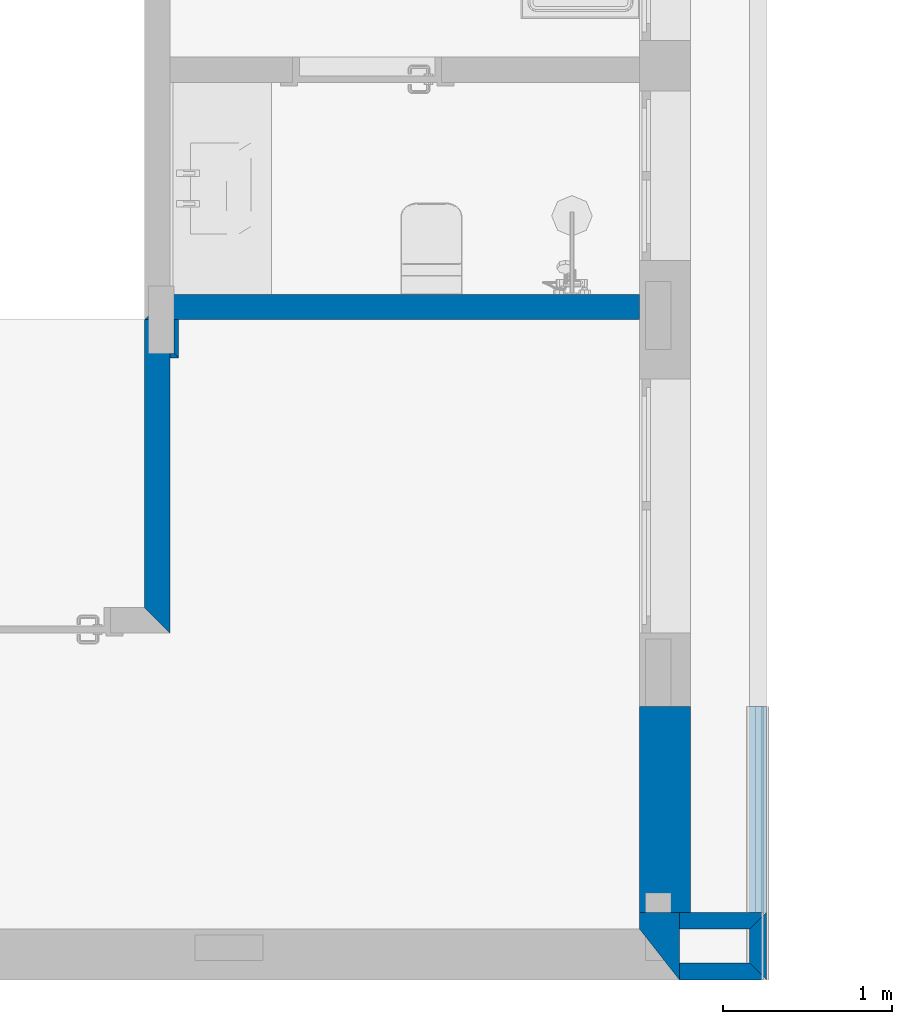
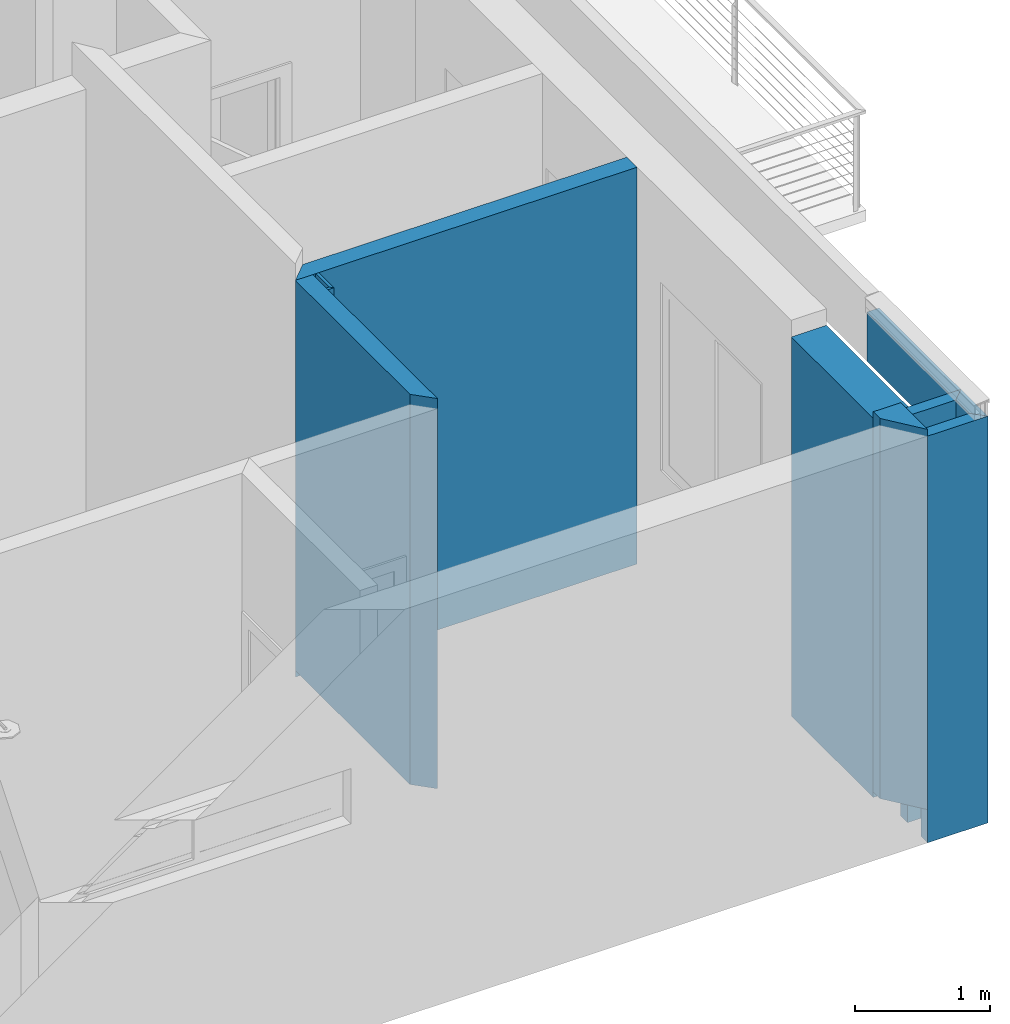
# One storey, part 5 of 26: 10 walls.
"""IFC2X3 building model written with IfcOpenShell, lengths in millimetres."""

from ifc_helpers import new_model, entity, si_unit, converted_unit, money_unit, direction, frame, origin_with_axes, place, context, subcontext, project, spatial, polyline, outline, extrude, material, layer, layer_set, layer_usage, type_object, element, save


model = new_model("IFC2X3")

# Units and contexts
model_context = context("Model", 3, precision=1e-05, world=origin_with_axes(), true_north=direction((0.0, 1.0)))
body_context = subcontext(model_context, "Body", "Model", "MODEL_VIEW")
ifc_project = project(units=[si_unit("LENGTHUNIT", "METRE", prefix="MILLI"), si_unit("AREAUNIT", "SQUARE_METRE"), si_unit("VOLUMEUNIT", "CUBIC_METRE"), converted_unit("PLANEANGLEUNIT", "DEGREE", entity("IfcPlaneAngleMeasure", 0.0174532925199), si_unit("PLANEANGLEUNIT", "RADIAN"), dimensions=[0, 0, 0, 0, 0, 0, 0]), si_unit("SOLIDANGLEUNIT", "STERADIAN"), money_unit("USD"), converted_unit("TIMEUNIT", "Year", entity("IfcTimeMeasure", 31556926.0), si_unit("TIMEUNIT", "SECOND"), dimensions=[0, 0, 0, 0, 0, 0, 0]), si_unit("MASSUNIT", "GRAM"), si_unit("THERMODYNAMICTEMPERATUREUNIT", "DEGREE_CELSIUS"), si_unit("LUMINOUSINTENSITYUNIT", "LUMEN")], contexts=[model_context])

# Site, building, storey
site_placement = place(None, origin_with_axes())
site = spatial("IfcSite", under=ifc_project, at=site_placement, Name="Grove Residential", CompositionType="ELEMENT")
building_placement = place(site_placement, origin_with_axes())
building = spatial("IfcBuilding", under=site, at=building_placement, Name="Building", CompositionType="ELEMENT")
storey_placement = place(building_placement, origin_with_axes())
storey = spatial("IfcBuildingStorey", under=building, at=storey_placement, Name="Ground Floor", CompositionType="ELEMENT", Elevation=0.0)

# Walls
ifc_material_1 = material(Name="Insulation - Plastic Soft")
ifc_layer_1 = layer(ifc_material_1, 50.0, ventilated="UNKNOWN")
ifc_material_2 = material(Name="Concrete Block")
ifc_layer_2 = layer(ifc_material_2, 150.0, ventilated="UNKNOWN")
ifc_material_3 = material(Name="Air Space - Fixing Zone")
ifc_layer_3 = layer(ifc_material_3, 10.0, ventilated="UNKNOWN")
ifc_material_4 = material(Name="Gypsum Plasterboard")
ifc_layer_4 = layer(ifc_material_4, 12.5, ventilated="UNKNOWN")
ifc_layer_5 = layer(ifc_material_4, 12.5, ventilated="UNKNOWN")
ifc_layer_set_1 = layer_set([ifc_layer_1, ifc_layer_2, ifc_layer_3, ifc_layer_4, ifc_layer_5], Name="EWF - 004")
ifc_layer_usage_1 = layer_usage(ifc_layer_set_1, "AXIS2", "NEGATIVE", 50.0)
wall_type_1 = type_object("IfcWallType", Name="EWF - 004 235", PredefinedType="NOTDEFINED")
wall_1_placement = place(storey_placement, frame((10185.0, 250.0, 0.0), z_axis=(0.0, 0.0, 1.0), x_axis=(0.0, -1.0, 0.0)))
element("IfcWallStandardCase", 1, at=wall_1_placement, inside=storey, type_object=wall_type_1, material=ifc_layer_usage_1, Name="SW - 002", context=body_context, shape_type="SweptSolid", body=[
    extrude(outline(polyline([(0.0, -185.0), (100.0, -185.0), (400.0, 50.0), (0.0, 50.0), (0.0, -185.0)])), origin_with_axes(), (0.0, 0.0, 1.0), 3440.0),
])
ifc_layer_6 = layer(ifc_material_4, 12.5, ventilated="UNKNOWN")
ifc_layer_7 = layer(ifc_material_4, 12.5, ventilated="UNKNOWN")
ifc_material_5 = material(Name="Air Space - Frame")
ifc_layer_8 = layer(ifc_material_5, 50.0, ventilated="UNKNOWN")
ifc_material_6 = material(Name="Insulation - Mineral Soft")
ifc_layer_9 = layer(ifc_material_6, 50.0, ventilated="UNKNOWN")
ifc_layer_10 = layer(ifc_material_4, 12.5, ventilated="UNKNOWN")
ifc_layer_11 = layer(ifc_material_4, 12.5, ventilated="UNKNOWN")
ifc_layer_set_2 = layer_set([ifc_layer_6, ifc_layer_7, ifc_layer_8, ifc_layer_9, ifc_layer_10, ifc_layer_11], Name="IWF-001")
ifc_layer_usage_2 = layer_usage(ifc_layer_set_2, "AXIS2", "NEGATIVE", 150.0)
wall_type_2 = type_object("IfcWallType", Name="IWF-001 150", PredefinedType="NOTDEFINED")
wall_2_placement = place(storey_placement, frame((7075.0, 3750.0, 0.0), z_axis=(0.0, 0.0, 1.0), x_axis=(0.0, -1.0, 0.0)))
element("IfcWallStandardCase", 2, at=wall_2_placement, inside=storey, type_object=wall_type_2, material=ifc_layer_usage_2, Name="SW - 001", context=body_context, shape_type="SweptSolid", body=[
    extrude(outline(polyline([(0.0, 0.0), (1700.0, 0.0), (1850.0, 150.0), (0.0, 150.0), (0.0, 0.0)])), origin_with_axes(), (0.0, 0.0, 1.0), 3530.0),
])
ifc_material_7 = material(Name="Wall Tiles")
ifc_layer_12 = layer(ifc_material_7, 12.5, ventilated="UNKNOWN")
ifc_material_8 = material(Name="Gypsum Plasterboard - Waterproof")
ifc_layer_13 = layer(ifc_material_8, 12.5, ventilated="UNKNOWN")
ifc_layer_14 = layer(ifc_material_5, 50.0, ventilated="UNKNOWN")
ifc_layer_15 = layer(ifc_material_6, 50.0, ventilated="UNKNOWN")
ifc_layer_16 = layer(ifc_material_4, 12.5, ventilated="UNKNOWN")
ifc_layer_17 = layer(ifc_material_4, 12.5, ventilated="UNKNOWN")
ifc_layer_set_3 = layer_set([ifc_layer_12, ifc_layer_13, ifc_layer_14, ifc_layer_15, ifc_layer_16, ifc_layer_17], Name="IWF-002")
ifc_layer_usage_3 = layer_usage(ifc_layer_set_3, "AXIS2", "NEGATIVE", 150.0)
wall_type_3 = type_object("IfcWallType", Name="IWF-002 150", PredefinedType="NOTDEFINED")
wall_3_placement = place(storey_placement, frame((7075.0, 3750.0, -60.0), z_axis=(0.0, 0.0, 1.0), x_axis=(1.0, 0.0, 0.0)))
element("IfcWallStandardCase", 3, at=wall_3_placement, inside=storey, type_object=wall_type_3, material=ifc_layer_usage_3, Name="SW - 001", context=body_context, shape_type="SweptSolid", body=[
    extrude(outline(polyline([(0.0, 0.0), (2925.0, 0.0), (2925.0, 150.0), (150.0, 150.0), (0.0, 0.0)])), origin_with_axes(), (0.0, 0.0, 1.0), 3590.0),
])
ifc_material_9 = material(Name="External Render")
ifc_layer_18 = layer(ifc_material_9, 20.0, ventilated="UNKNOWN")
ifc_material_10 = material(Name="Cement Board")
ifc_layer_19 = layer(ifc_material_10, 10.0, ventilated="UNKNOWN")
ifc_layer_20 = layer(ifc_material_5, 70.0, ventilated="UNKNOWN")
ifc_layer_set_4 = layer_set([ifc_layer_18, ifc_layer_19, ifc_layer_20], Name="EWF - 003")
ifc_layer_usage_4 = layer_usage(ifc_layer_set_4, "AXIS2", "POSITIVE", -115.0)
wall_type_4 = type_object("IfcWallType", Name="EWF - 003 100", PredefinedType="NOTDEFINED")
wall_4_placement = place(storey_placement, frame((10185.0, -35.0, -300.0), z_axis=(0.0, 0.0, 1.0), x_axis=(1.0, 0.0, 0.0)))
element("IfcWallStandardCase", 4, at=wall_4_placement, inside=storey, type_object=wall_type_4, material=ifc_layer_usage_4, Name="SW - 001", context=body_context, shape_type="SweptSolid", body=[
    extrude(outline(polyline([(50.0, -115.0), (565.0, -115.0), (465.0, -15.0), (50.0, -15.0), (50.0, -115.0)])), origin_with_axes(), (0.0, 0.0, 1.0), 3680.0),
])
ifc_layer_usage_5 = layer_usage(ifc_layer_set_4, "AXIS2", "POSITIVE", -115.0)
wall_5_placement = place(storey_placement, frame((10635.0, -35.0, -300.0), z_axis=(0.0, 0.0, 1.0), x_axis=(0.0, 1.0, 0.0)))
element("IfcWallStandardCase", 5, at=wall_5_placement, inside=storey, type_object=wall_type_4, material=ifc_layer_usage_5, Name="SW - 001", context=body_context, shape_type="SweptSolid", body=[
    extrude(outline(polyline([(-115.0, -115.0), (285.0, -115.0), (185.0, -15.0), (-15.0, -15.0), (-115.0, -115.0)])), origin_with_axes(), (0.0, 0.0, 1.0), 3680.0),
])
ifc_layer_usage_6 = layer_usage(ifc_layer_set_4, "AXIS2", "POSITIVE", -115.0)
wall_6_placement = place(storey_placement, frame((10635.0, 135.0, -300.0), z_axis=(0.0, 0.0, 1.0), x_axis=(-1.0, 0.0, 0.0)))
element("IfcWallStandardCase", 6, at=wall_6_placement, inside=storey, type_object=wall_type_4, material=ifc_layer_usage_6, Name="SW - 002", context=body_context, shape_type="SweptSolid", body=[
    extrude(outline(polyline([(-115.0, -115.0), (400.0, -115.0), (400.0, -15.0), (-15.0, -15.0), (-115.0, -115.0)])), origin_with_axes(), (0.0, 0.0, 1.0), 3680.0),
])
ifc_material_11 = material(Name="Timber - External Cladding")
ifc_layer_21 = layer(ifc_material_11, 40.0, ventilated="UNKNOWN")
ifc_layer_22 = layer(ifc_material_3, 25.0, ventilated="UNKNOWN")
ifc_layer_23 = layer(ifc_material_1, 50.0, ventilated="UNKNOWN")
ifc_layer_24 = layer(ifc_material_2, 150.0, ventilated="UNKNOWN")
ifc_layer_25 = layer(ifc_material_3, 10.0, ventilated="UNKNOWN")
ifc_layer_26 = layer(ifc_material_4, 12.5, ventilated="UNKNOWN")
ifc_layer_27 = layer(ifc_material_4, 12.5, ventilated="UNKNOWN")
ifc_layer_set_5 = layer_set([ifc_layer_21, ifc_layer_22, ifc_layer_23, ifc_layer_24, ifc_layer_25, ifc_layer_26, ifc_layer_27], Name="EWF - 002")
ifc_layer_usage_7 = layer_usage(ifc_layer_set_5, "AXIS2", "NEGATIVE", 115.0)
wall_type_5 = type_object("IfcWallType", Name="EWF - 002 300", PredefinedType="NOTDEFINED")
wall_7_placement = place(storey_placement, frame((10185.0, 1464.99992309, -50.0), z_axis=(0.0, 0.0, 1.0), x_axis=(0.0, -1.0, 0.0)))
element("IfcWallStandardCase", 7, at=wall_7_placement, inside=storey, type_object=wall_type_5, material=ifc_layer_usage_7, Name="SW - 002", context=body_context, shape_type="SweptSolid", body=[
    extrude(outline(polyline([(0.0, -185.0), (1214.99992309, -185.0), (1214.99992309, 115.0), (0.0, 115.0), (0.0, -185.0)])), origin_with_axes(), (0.0, 0.0, 1.0), 3430.0),
])
ifc_layer_28 = layer(ifc_material_9, 20.0, ventilated="UNKNOWN")
ifc_layer_29 = layer(ifc_material_10, 10.0, ventilated="UNKNOWN")
ifc_material_12 = material(Name="Air Space")
ifc_layer_30 = layer(ifc_material_12, 35.0, ventilated="UNKNOWN")
ifc_layer_31 = layer(ifc_material_3, 10.0, ventilated="UNKNOWN")
ifc_layer_32 = layer(ifc_material_4, 12.5, ventilated="UNKNOWN")
ifc_layer_33 = layer(ifc_material_4, 12.5, ventilated="UNKNOWN")
ifc_layer_set_6 = layer_set([ifc_layer_28, ifc_layer_29, ifc_layer_30, ifc_layer_31, ifc_layer_32, ifc_layer_33], Name="EWF - 012")
ifc_layer_usage_8 = layer_usage(ifc_layer_set_6, "AXIS2", "NEGATIVE", 1.38777878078e-14)
wall_type_6 = type_object("IfcWallType", Name="EWF - 012 100", PredefinedType="NOTDEFINED")
wall_8_placement = place(storey_placement, frame((10750.0, 1464.99992309, 2930.0), z_axis=(0.0, 0.0, 1.0), x_axis=(0.0, -1.0, 0.0)))
element("IfcWallStandardCase", 8, at=wall_8_placement, inside=storey, type_object=wall_type_6, material=ifc_layer_usage_8, Name="SW - 001", context=body_context, shape_type="SweptSolid", body=[
    extrude(outline(polyline([(0.0, -100.0), (1214.99992309, -100.0), (1214.99992309, 0.0), (0.0, 0.0), (0.0, -100.0)])), origin_with_axes(), (0.0, 0.0, 1.0), 450.0),
])
ifc_layer_34 = layer(ifc_material_4, 12.5, ventilated="UNKNOWN")
ifc_layer_35 = layer(ifc_material_4, 12.5, ventilated="UNKNOWN")
ifc_layer_set_7 = layer_set([ifc_layer_34, ifc_layer_35], Name="IF-001")
ifc_layer_usage_9 = layer_usage(ifc_layer_set_7, "AXIS2", "POSITIVE", -25.0)
wall_type_7 = type_object("IfcWallType", Name="IF-001 25", PredefinedType="NOTDEFINED")
wall_9_placement = place(storey_placement, frame((7075.0, 3549.99996722, 0.0), z_axis=(0.0, 0.0, 1.0), x_axis=(1.0, 0.0, 0.0)))
element("IfcWallStandardCase", 9, at=wall_9_placement, inside=storey, type_object=wall_type_7, material=ifc_layer_usage_9, Name="SW - 001", context=body_context, shape_type="SweptSolid", body=[
    extrude(outline(polyline([(150.0, -25.0), (200.0, -25.0), (175.0, 0.0), (150.0, 0.0), (150.0, -25.0)])), origin_with_axes(), (0.0, 0.0, 1.0), 3530.0),
])
ifc_layer_usage_10 = layer_usage(ifc_layer_set_7, "AXIS2", "POSITIVE", -25.0)
wall_10_placement = place(storey_placement, frame((7250.0, 3549.99996722, 0.0), z_axis=(0.0, 0.0, 1.0), x_axis=(0.0, 1.0, 0.0)))
element("IfcWallStandardCase", 10, at=wall_10_placement, inside=storey, type_object=wall_type_7, material=ifc_layer_usage_10, Name="SW - 001", context=body_context, shape_type="SweptSolid", body=[
    extrude(outline(polyline([(-25.0, -25.0), (200.000032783, -25.0), (200.000032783, 0.0), (0.0, 0.0), (-25.0, -25.0)])), origin_with_axes(), (0.0, 0.0, 1.0), 3530.0),
])

save(model, "model.ifc")
